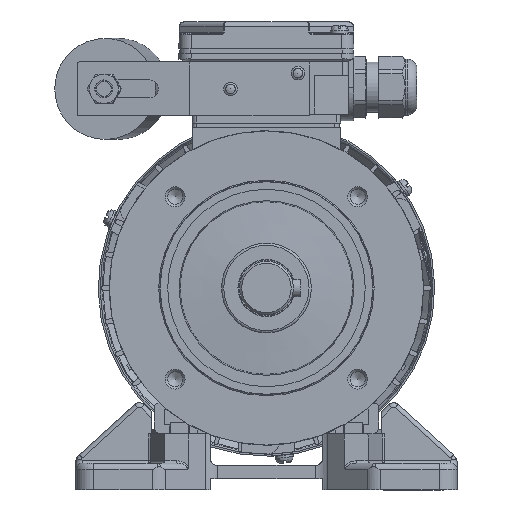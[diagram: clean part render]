
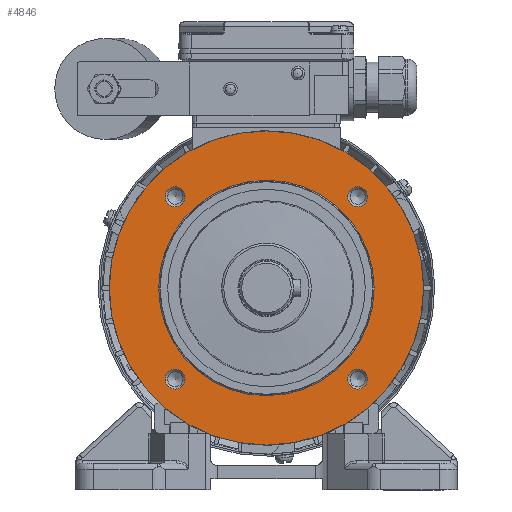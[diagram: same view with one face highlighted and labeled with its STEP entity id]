
A CAD part, left-side view. The second image highlights one B-rep face of the part: STEP entity #4846.
In plain terms, the highlighted planar face has unit normal (-1, 0, 0) as drawn and (0, -1, 0) by its records, which use the part's own axes.
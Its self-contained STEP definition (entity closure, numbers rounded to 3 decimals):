
#4846 = ADVANCED_FACE( '', ( #11039, #11040, #11041, #11042, #11043, #11044 ), #11045, .F. );
#11039 = FACE_BOUND( '', #23982, .T. );
#11040 = FACE_BOUND( '', #23983, .T. );
#11041 = FACE_BOUND( '', #23984, .T. );
#11042 = FACE_BOUND( '', #23985, .T. );
#11043 = FACE_BOUND( '', #23986, .T. );
#11044 = FACE_OUTER_BOUND( '', #23987, .T. );
#11045 = PLANE( '', #23988 );
#23982 = EDGE_LOOP( '', ( #48371 ) );
#23983 = EDGE_LOOP( '', ( #48372 ) );
#23984 = EDGE_LOOP( '', ( #48373 ) );
#23985 = EDGE_LOOP( '', ( #48374 ) );
#23986 = EDGE_LOOP( '', ( #48375 ) );
#23987 = EDGE_LOOP( '', ( #48376 ) );
#23988 = AXIS2_PLACEMENT_3D( '', #48377, #48378, #48379 );
#48371 = ORIENTED_EDGE( '', *, *, #85604, .T. );
#48372 = ORIENTED_EDGE( '', *, *, #85605, .T. );
#48373 = ORIENTED_EDGE( '', *, *, #85606, .T. );
#48374 = ORIENTED_EDGE( '', *, *, #85607, .T. );
#48375 = ORIENTED_EDGE( '', *, *, #82115, .T. );
#48376 = ORIENTED_EDGE( '', *, *, #85608, .T. );
#48377 = CARTESIAN_POINT( '', ( 0., 3., 70. ) );
#48378 = DIRECTION( '', ( 0., 1., 0. ) );
#48379 = DIRECTION( '', ( 0., 0., 1. ) );
#82115 = EDGE_CURVE( '', #97703, #97703, #97704, .T. );
#85604 = EDGE_CURVE( '', #103598, #103598, #103599, .T. );
#85605 = EDGE_CURVE( '', #103600, #103600, #103601, .T. );
#85606 = EDGE_CURVE( '', #103602, #103602, #103603, .T. );
#85607 = EDGE_CURVE( '', #103604, #103604, #103605, .T. );
#85608 = EDGE_CURVE( '', #103606, #103606, #103607, .T. );
#97703 = VERTEX_POINT( '', #113492 );
#97704 = CIRCLE( '', #113493, 48. );
#103598 = VERTEX_POINT( '', #125593 );
#103599 = CIRCLE( '', #125594, 4.4 );
#103600 = VERTEX_POINT( '', #125595 );
#103601 = CIRCLE( '', #125596, 4.4 );
#103602 = VERTEX_POINT( '', #125597 );
#103603 = CIRCLE( '', #125598, 4.4 );
#103604 = VERTEX_POINT( '', #125599 );
#103605 = CIRCLE( '', #125600, 4.4 );
#103606 = VERTEX_POINT( '', #125601 );
#103607 = CIRCLE( '', #125602, 70. );
#113492 = CARTESIAN_POINT( '', ( 0., 3., 48. ) );
#113493 = AXIS2_PLACEMENT_3D( '', #144690, #144691, #144692 );
#125593 = CARTESIAN_POINT( '', ( -40.659, 3., -36.259 ) );
#125594 = AXIS2_PLACEMENT_3D( '', #149078, #149079, #149080 );
#125595 = CARTESIAN_POINT( '', ( 40.659, 3., -36.259 ) );
#125596 = AXIS2_PLACEMENT_3D( '', #149081, #149082, #149083 );
#125597 = CARTESIAN_POINT( '', ( 40.659, 3., 45.059 ) );
#125598 = AXIS2_PLACEMENT_3D( '', #149084, #149085, #149086 );
#125599 = CARTESIAN_POINT( '', ( -40.659, 3., 45.059 ) );
#125600 = AXIS2_PLACEMENT_3D( '', #149087, #149088, #149089 );
#125601 = CARTESIAN_POINT( '', ( 0., 3., -70. ) );
#125602 = AXIS2_PLACEMENT_3D( '', #149090, #149091, #149092 );
#144690 = CARTESIAN_POINT( '', ( 0., 3., 0. ) );
#144691 = DIRECTION( '', ( 0., 1., 0. ) );
#144692 = DIRECTION( '', ( 0., 0., 1. ) );
#149078 = CARTESIAN_POINT( '', ( -40.659, 3., -40.659 ) );
#149079 = DIRECTION( '', ( 0., 1., 0. ) );
#149080 = DIRECTION( '', ( 0., 0., 1. ) );
#149081 = CARTESIAN_POINT( '', ( 40.659, 3., -40.659 ) );
#149082 = DIRECTION( '', ( 0., 1., 0. ) );
#149083 = DIRECTION( '', ( 0., 0., 1. ) );
#149084 = CARTESIAN_POINT( '', ( 40.659, 3., 40.659 ) );
#149085 = DIRECTION( '', ( 0., 1., 0. ) );
#149086 = DIRECTION( '', ( 0., 0., 1. ) );
#149087 = CARTESIAN_POINT( '', ( -40.659, 3., 40.659 ) );
#149088 = DIRECTION( '', ( 0., 1., 0. ) );
#149089 = DIRECTION( '', ( 0., 0., 1. ) );
#149090 = CARTESIAN_POINT( '', ( 0., 3., 0. ) );
#149091 = DIRECTION( '', ( 0., -1., 0. ) );
#149092 = DIRECTION( '', ( 0., 0., -1. ) );
